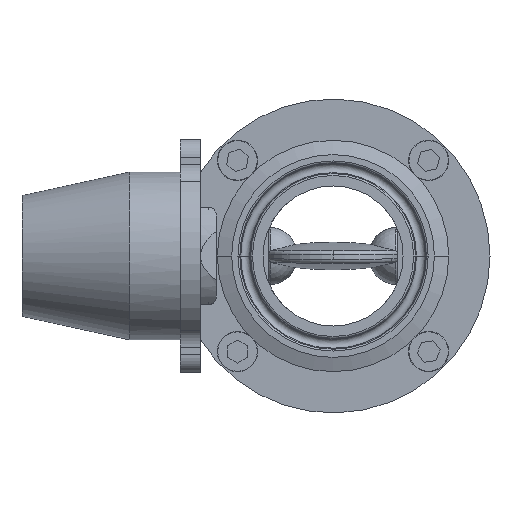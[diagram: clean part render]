
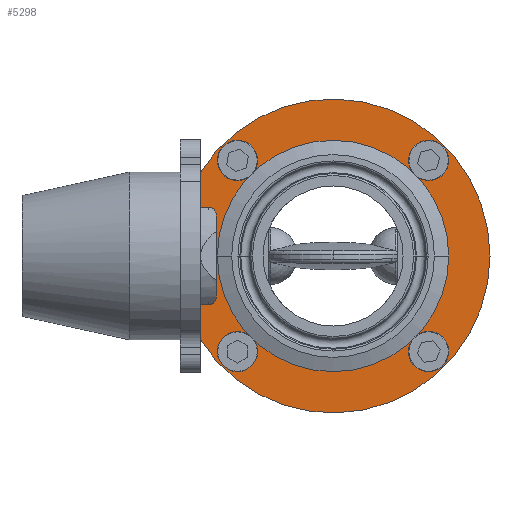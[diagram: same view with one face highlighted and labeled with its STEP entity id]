
A CAD part, left-side view. The second image highlights one B-rep face of the part: STEP entity #5298.
In plain terms, the highlighted planar face has unit normal (-1, 0, 0) as drawn and (1, 0, 0) by its records, which use the part's own axes.
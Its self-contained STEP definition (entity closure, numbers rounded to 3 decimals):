
#16 = EDGE_LOOP ( 'NONE', ( #16215, #3949 ) ) ;
#150 = VERTEX_POINT ( 'NONE', #23884 ) ;
#304 = VERTEX_POINT ( 'NONE', #8206 ) ;
#661 = DIRECTION ( 'NONE',  ( 1., 0., 0. ) ) ;
#684 = CIRCLE ( 'NONE', #29869, 3.4 ) ;
#1058 = LINE ( 'NONE', #19846, #1680 ) ;
#1296 = ORIENTED_EDGE ( 'NONE', *, *, #26732, .F. ) ;
#1366 = VERTEX_POINT ( 'NONE', #3559 ) ;
#1680 = VECTOR ( 'NONE', #24772, 1000. ) ;
#1744 = CARTESIAN_POINT ( 'NONE',  ( 11., 23.75, 23.75 ) ) ;
#1995 = DIRECTION ( 'NONE',  ( 0., 0., 1. ) ) ;
#2797 = CARTESIAN_POINT ( 'NONE',  ( 11., -23.75, 27.15 ) ) ;
#3273 = FACE_BOUND ( 'NONE', #3965, .T. ) ;
#3518 = DIRECTION ( 'NONE',  ( 0., 0., 1. ) ) ;
#3559 = CARTESIAN_POINT ( 'NONE',  ( 11., -23.75, 20.35 ) ) ;
#3563 = CARTESIAN_POINT ( 'NONE',  ( 11., 39., 0. ) ) ;
#3762 = DIRECTION ( 'NONE',  ( 0., 0., 1. ) ) ;
#3768 = VERTEX_POINT ( 'NONE', #2797 ) ;
#3827 = DIRECTION ( 'NONE',  ( 1., 0., 0. ) ) ;
#3876 = PLANE ( 'NONE',  #17880 ) ;
#3949 = ORIENTED_EDGE ( 'NONE', *, *, #11446, .F. ) ;
#3965 = EDGE_LOOP ( 'NONE', ( #29079, #22773 ) ) ;
#4128 = DIRECTION ( 'NONE',  ( 0., 0., 1. ) ) ;
#5268 = VERTEX_POINT ( 'NONE', #22188 ) ;
#5298 = ADVANCED_FACE ( 'NONE', ( #10381, #17700, #3273, #29288, #24798, #25106 ), #3876, .F. ) ;
#5396 = EDGE_CURVE ( 'NONE', #11591, #150, #5518, .T. ) ;
#5518 = CIRCLE ( 'NONE', #13423, 28.75 ) ;
#5610 = AXIS2_PLACEMENT_3D ( 'NONE', #5615, #661, #20062 ) ;
#5615 = CARTESIAN_POINT ( 'NONE',  ( 11., -23.75, 23.75 ) ) ;
#5887 = EDGE_LOOP ( 'NONE', ( #26408, #18046 ) ) ;
#6345 = DIRECTION ( 'NONE',  ( 0., 0., 1. ) ) ;
#6441 = CARTESIAN_POINT ( 'NONE',  ( 11., -23.75, 23.75 ) ) ;
#6558 = AXIS2_PLACEMENT_3D ( 'NONE', #14610, #28837, #29005 ) ;
#6867 = VERTEX_POINT ( 'NONE', #12773 ) ;
#6998 = AXIS2_PLACEMENT_3D ( 'NONE', #11096, #3827, #3518 ) ;
#7124 = ORIENTED_EDGE ( 'NONE', *, *, #18663, .F. ) ;
#7167 = AXIS2_PLACEMENT_3D ( 'NONE', #13280, #29864, #20004 ) ;
#8206 = CARTESIAN_POINT ( 'NONE',  ( 11., 23.75, 20.35 ) ) ;
#8527 = CIRCLE ( 'NONE', #18972, 39. ) ;
#8600 = CIRCLE ( 'NONE', #9609, 3.4 ) ;
#9609 = AXIS2_PLACEMENT_3D ( 'NONE', #1744, #17868, #3762 ) ;
#9765 = VERTEX_POINT ( 'NONE', #25971 ) ;
#10232 = EDGE_CURVE ( 'NONE', #1366, #3768, #22029, .T. ) ;
#10381 = FACE_BOUND ( 'NONE', #22240, .T. ) ;
#10867 = DIRECTION ( 'NONE',  ( 0., 0., 1. ) ) ;
#11096 = CARTESIAN_POINT ( 'NONE',  ( 11., 23.75, -23.75 ) ) ;
#11363 = EDGE_CURVE ( 'NONE', #17330, #304, #8600, .T. ) ;
#11446 = EDGE_CURVE ( 'NONE', #5268, #9765, #27902, .T. ) ;
#11591 = VERTEX_POINT ( 'NONE', #15793 ) ;
#11692 = EDGE_LOOP ( 'NONE', ( #23602, #12944 ) ) ;
#12773 = CARTESIAN_POINT ( 'NONE',  ( 11., 0., 39. ) ) ;
#12944 = ORIENTED_EDGE ( 'NONE', *, *, #21784, .F. ) ;
#13280 = CARTESIAN_POINT ( 'NONE',  ( 11., -23.75, -23.75 ) ) ;
#13423 = AXIS2_PLACEMENT_3D ( 'NONE', #13936, #15968, #6345 ) ;
#13454 = CIRCLE ( 'NONE', #23881, 3.4 ) ;
#13559 = VERTEX_POINT ( 'NONE', #27704 ) ;
#13936 = CARTESIAN_POINT ( 'NONE',  ( 11., 0., 0. ) ) ;
#14033 = EDGE_CURVE ( 'NONE', #28427, #13559, #19916, .T. ) ;
#14226 = EDGE_CURVE ( 'NONE', #13559, #28427, #13454, .T. ) ;
#14610 = CARTESIAN_POINT ( 'NONE',  ( 11., 23.75, 23.75 ) ) ;
#14806 = CARTESIAN_POINT ( 'NONE',  ( 11., 23.75, -23.75 ) ) ;
#14832 = DIRECTION ( 'NONE',  ( -1., 0., 0. ) ) ;
#15501 = CIRCLE ( 'NONE', #27348, 28.75 ) ;
#15670 = DIRECTION ( 'NONE',  ( 0., 0., 1. ) ) ;
#15793 = CARTESIAN_POINT ( 'NONE',  ( 11., 0., 28.75 ) ) ;
#15907 = DIRECTION ( 'NONE',  ( 1., 0., 0. ) ) ;
#15968 = DIRECTION ( 'NONE',  ( -1., 0., 0. ) ) ;
#16215 = ORIENTED_EDGE ( 'NONE', *, *, #19735, .F. ) ;
#16261 = DIRECTION ( 'NONE',  ( 1., 0., 0. ) ) ;
#17330 = VERTEX_POINT ( 'NONE', #17489 ) ;
#17489 = CARTESIAN_POINT ( 'NONE',  ( 11., 23.75, 27.15 ) ) ;
#17592 = DIRECTION ( 'NONE',  ( -1., 0., 0. ) ) ;
#17618 = CARTESIAN_POINT ( 'NONE',  ( 11., 20.785, -33. ) ) ;
#17700 = FACE_BOUND ( 'NONE', #11692, .T. ) ;
#17748 = VERTEX_POINT ( 'NONE', #17618 ) ;
#17868 = DIRECTION ( 'NONE',  ( 1., 0., 0. ) ) ;
#17880 = AXIS2_PLACEMENT_3D ( 'NONE', #3563, #24955, #15670 ) ;
#17967 = CIRCLE ( 'NONE', #6558, 3.4 ) ;
#18046 = ORIENTED_EDGE ( 'NONE', *, *, #22641, .T. ) ;
#18538 = AXIS2_PLACEMENT_3D ( 'NONE', #22915, #16261, #1995 ) ;
#18663 = EDGE_CURVE ( 'NONE', #17748, #22799, #1058, .T. ) ;
#18792 = DIRECTION ( 'NONE',  ( 0., 0., 1. ) ) ;
#18972 = AXIS2_PLACEMENT_3D ( 'NONE', #21970, #14832, #19512 ) ;
#19512 = DIRECTION ( 'NONE',  ( 0., 0., 1. ) ) ;
#19659 = CIRCLE ( 'NONE', #29015, 39. ) ;
#19735 = EDGE_CURVE ( 'NONE', #9765, #5268, #23544, .T. ) ;
#19846 = CARTESIAN_POINT ( 'NONE',  ( 11., 30.922, -33. ) ) ;
#19916 = CIRCLE ( 'NONE', #6998, 3.4 ) ;
#20004 = DIRECTION ( 'NONE',  ( 0., 0., 1. ) ) ;
#20062 = DIRECTION ( 'NONE',  ( 0., 0., 1. ) ) ;
#20075 = CARTESIAN_POINT ( 'NONE',  ( 11., 0., 0. ) ) ;
#21576 = DIRECTION ( 'NONE',  ( -1., 0., 0. ) ) ;
#21784 = EDGE_CURVE ( 'NONE', #304, #17330, #17967, .T. ) ;
#21970 = CARTESIAN_POINT ( 'NONE',  ( 11., 0., 0. ) ) ;
#22029 = CIRCLE ( 'NONE', #5610, 3.4 ) ;
#22104 = EDGE_CURVE ( 'NONE', #22799, #6867, #8527, .T. ) ;
#22188 = CARTESIAN_POINT ( 'NONE',  ( 11., -23.75, -27.15 ) ) ;
#22240 = EDGE_LOOP ( 'NONE', ( #28330, #27655 ) ) ;
#22641 = EDGE_CURVE ( 'NONE', #150, #11591, #15501, .T. ) ;
#22773 = ORIENTED_EDGE ( 'NONE', *, *, #10232, .F. ) ;
#22799 = VERTEX_POINT ( 'NONE', #24785 ) ;
#22915 = CARTESIAN_POINT ( 'NONE',  ( 11., -23.75, -23.75 ) ) ;
#23293 = EDGE_CURVE ( 'NONE', #3768, #1366, #684, .T. ) ;
#23544 = CIRCLE ( 'NONE', #7167, 3.4 ) ;
#23602 = ORIENTED_EDGE ( 'NONE', *, *, #11363, .F. ) ;
#23881 = AXIS2_PLACEMENT_3D ( 'NONE', #14806, #26571, #28444 ) ;
#23884 = CARTESIAN_POINT ( 'NONE',  ( 11., 0., -28.75 ) ) ;
#24772 = DIRECTION ( 'NONE',  ( 0., -1., 0. ) ) ;
#24785 = CARTESIAN_POINT ( 'NONE',  ( 11., -20.785, -33. ) ) ;
#24798 = FACE_OUTER_BOUND ( 'NONE', #29880, .T. ) ;
#24955 = DIRECTION ( 'NONE',  ( -1., 0., 0. ) ) ;
#25106 = FACE_BOUND ( 'NONE', #5887, .T. ) ;
#25971 = CARTESIAN_POINT ( 'NONE',  ( 11., -23.75, -20.35 ) ) ;
#26408 = ORIENTED_EDGE ( 'NONE', *, *, #5396, .T. ) ;
#26571 = DIRECTION ( 'NONE',  ( 1., 0., 0. ) ) ;
#26732 = EDGE_CURVE ( 'NONE', #6867, #17748, #19659, .T. ) ;
#27348 = AXIS2_PLACEMENT_3D ( 'NONE', #28803, #21576, #18792 ) ;
#27655 = ORIENTED_EDGE ( 'NONE', *, *, #14033, .F. ) ;
#27704 = CARTESIAN_POINT ( 'NONE',  ( 11., 23.75, -20.35 ) ) ;
#27902 = CIRCLE ( 'NONE', #18538, 3.4 ) ;
#28084 = ORIENTED_EDGE ( 'NONE', *, *, #22104, .F. ) ;
#28330 = ORIENTED_EDGE ( 'NONE', *, *, #14226, .F. ) ;
#28427 = VERTEX_POINT ( 'NONE', #29690 ) ;
#28444 = DIRECTION ( 'NONE',  ( 0., 0., 1. ) ) ;
#28803 = CARTESIAN_POINT ( 'NONE',  ( 11., 0., 0. ) ) ;
#28837 = DIRECTION ( 'NONE',  ( 1., 0., 0. ) ) ;
#29005 = DIRECTION ( 'NONE',  ( 0., 0., 1. ) ) ;
#29015 = AXIS2_PLACEMENT_3D ( 'NONE', #20075, #17592, #10867 ) ;
#29079 = ORIENTED_EDGE ( 'NONE', *, *, #23293, .F. ) ;
#29288 = FACE_BOUND ( 'NONE', #16, .T. ) ;
#29690 = CARTESIAN_POINT ( 'NONE',  ( 11., 23.75, -27.15 ) ) ;
#29864 = DIRECTION ( 'NONE',  ( 1., 0., 0. ) ) ;
#29869 = AXIS2_PLACEMENT_3D ( 'NONE', #6441, #15907, #4128 ) ;
#29880 = EDGE_LOOP ( 'NONE', ( #28084, #7124, #1296 ) ) ;
